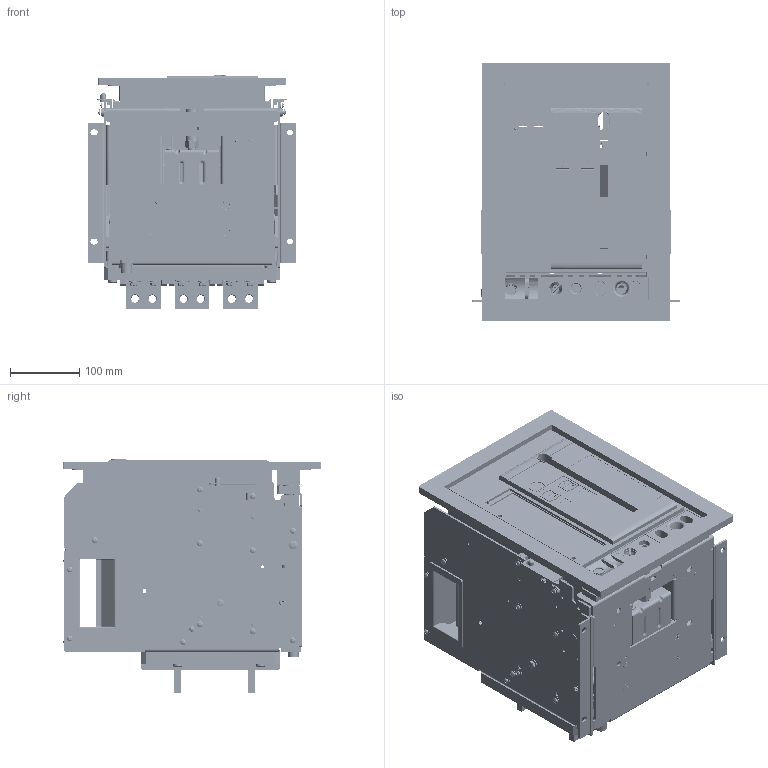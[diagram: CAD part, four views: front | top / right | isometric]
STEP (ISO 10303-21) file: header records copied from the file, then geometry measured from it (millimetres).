
FILE_DESCRIPTION (( 'STEP AP214' ), '1' );
FILE_NAME ('TENGEN_TGW1N-1600_3P_800A-1000A.stp', '2026-05-21T08:41:12', ( '' ), ( '' ), 'SwSTEP 2.0', 'SolidWorks 2024', '' );
FILE_SCHEMA (( 'AUTOMOTIVE_DESIGN' ));
Products named in the file (1): TENGEN_TGW1N-1600_3P_800A-1000A
Bounding box: 302 x 374 x 339.5 mm (x, y, z)
Surface area: 1636992.1 mm2 (no closed solid volume)
Topology: 0 solids, 310 shells, 3443 faces, 23753 edges, 20227 vertices
Faces by surface type: plane 1739, cylinder 1108, torus 274, cone 209, sphere 70, bspline 43
Entity records: 286839 total; most frequent: CARTESIAN_POINT 139147, ORIENTED_EDGE 30708, EDGE_CURVE 23725, VERTEX_POINT 20224, DIRECTION 19739, B_SPLINE_CURVE_WITH_KNOTS 13537, LINE 7395, VECTOR 7395
